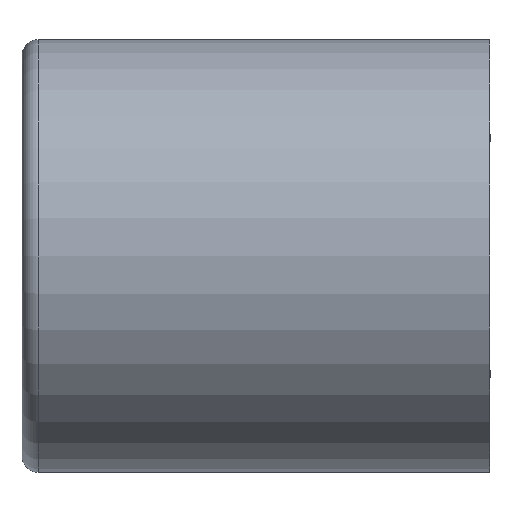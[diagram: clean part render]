
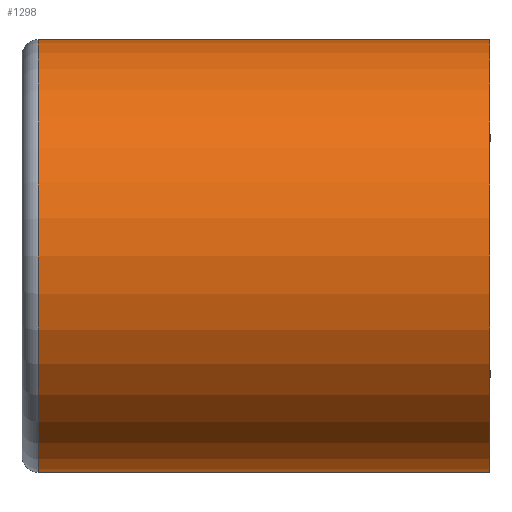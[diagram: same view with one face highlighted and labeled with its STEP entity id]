
A CAD part, front view. The second image highlights one B-rep face of the part: STEP entity #1298.
In plain terms, the highlighted cylindrical face has radius 18.5 mm (diameter 37 mm), a partial arc.
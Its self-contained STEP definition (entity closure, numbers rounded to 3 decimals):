
#21 = LINE ( 'NONE', #2697, #145 ) ;
#145 = VECTOR ( 'NONE', #2748, 1000. ) ;
#207 = EDGE_CURVE ( 'NONE', #4550, #827, #21, .T. ) ;
#222 = DIRECTION ( 'NONE',  ( -1., 0., 0. ) ) ;
#232 = CARTESIAN_POINT ( 'NONE',  ( -38.6, 0., 18.5 ) ) ;
#240 = CARTESIAN_POINT ( 'NONE',  ( -38.6, 0., 0. ) ) ;
#499 = LINE ( 'NONE', #654, #5672 ) ;
#654 = CARTESIAN_POINT ( 'NONE',  ( -40., 0., -18.5 ) ) ;
#780 = AXIS2_PLACEMENT_3D ( 'NONE', #3345, #3321, #3301 ) ;
#827 = VERTEX_POINT ( 'NONE', #232 ) ;
#1298 = ADVANCED_FACE ( 'NONE', ( #1720 ), #3890, .T. ) ;
#1375 = AXIS2_PLACEMENT_3D ( 'NONE', #240, #2888, #5497 ) ;
#1607 = EDGE_LOOP ( 'NONE', ( #3761, #3801, #5434, #4329 ) ) ;
#1720 = FACE_OUTER_BOUND ( 'NONE', #1607, .T. ) ;
#1854 = CIRCLE ( 'NONE', #780, 18.5 ) ;
#2295 = CIRCLE ( 'NONE', #1375, 18.5 ) ;
#2313 = DIRECTION ( 'NONE',  ( 0., 0., 1. ) ) ;
#2397 = CARTESIAN_POINT ( 'NONE',  ( -40., 0., 0. ) ) ;
#2456 = CARTESIAN_POINT ( 'NONE',  ( 0., 0., 18.5 ) ) ;
#2512 = DIRECTION ( 'NONE',  ( -1., 0., 0. ) ) ;
#2697 = CARTESIAN_POINT ( 'NONE',  ( -40., 0., 18.5 ) ) ;
#2748 = DIRECTION ( 'NONE',  ( -1., 0., 0. ) ) ;
#2775 = EDGE_CURVE ( 'NONE', #827, #4997, #2295, .T. ) ;
#2888 = DIRECTION ( 'NONE',  ( 1., 0., 0. ) ) ;
#3301 = DIRECTION ( 'NONE',  ( 0., 0., 1. ) ) ;
#3321 = DIRECTION ( 'NONE',  ( -1., 0., 0. ) ) ;
#3345 = CARTESIAN_POINT ( 'NONE',  ( 0., 0., 0. ) ) ;
#3761 = ORIENTED_EDGE ( 'NONE', *, *, #4865, .F. ) ;
#3801 = ORIENTED_EDGE ( 'NONE', *, *, #5235, .T. ) ;
#3890 = CYLINDRICAL_SURFACE ( 'NONE', #4824, 18.5 ) ;
#4329 = ORIENTED_EDGE ( 'NONE', *, *, #2775, .T. ) ;
#4550 = VERTEX_POINT ( 'NONE', #2456 ) ;
#4824 = AXIS2_PLACEMENT_3D ( 'NONE', #2397, #2512, #2313 ) ;
#4863 = CARTESIAN_POINT ( 'NONE',  ( 0., 0., -18.5 ) ) ;
#4865 = EDGE_CURVE ( 'NONE', #5076, #4997, #499, .T. ) ;
#4997 = VERTEX_POINT ( 'NONE', #5592 ) ;
#5076 = VERTEX_POINT ( 'NONE', #4863 ) ;
#5235 = EDGE_CURVE ( 'NONE', #5076, #4550, #1854, .T. ) ;
#5434 = ORIENTED_EDGE ( 'NONE', *, *, #207, .T. ) ;
#5497 = DIRECTION ( 'NONE',  ( 0., 0., -1. ) ) ;
#5592 = CARTESIAN_POINT ( 'NONE',  ( -38.6, 0., -18.5 ) ) ;
#5672 = VECTOR ( 'NONE', #222, 1000. ) ;
